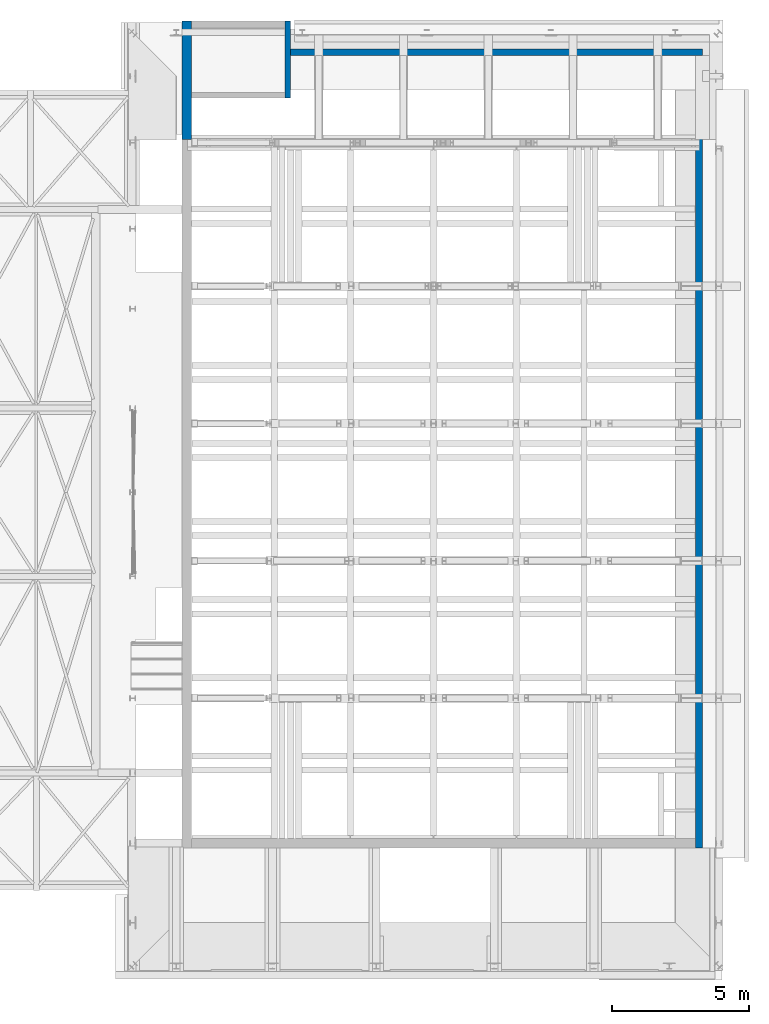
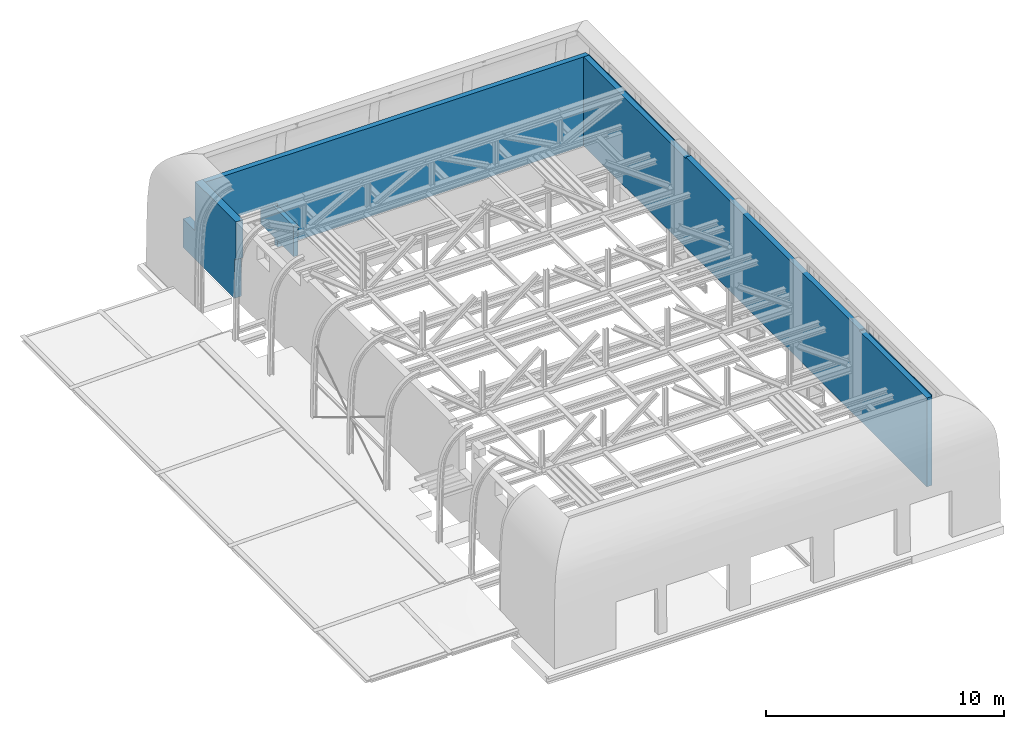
# One storey, part 26 of 29: 4 walls, 1 opening.
"""IFC2X3 building model written with IfcOpenShell, lengths in millimetres."""

from ifc_helpers import new_model, entity, si_unit, converted_unit, derived_unit, direction, frame, frame_2d, origin, place, context, subcontext, project, spatial, rectangle, extrude, faceted_brep, material, layer, layer_set, layer_usage, type_object, element, save


model = new_model("IFC2X3")

# Units and contexts
model_context = context("Model", 3, precision=0.01, world=origin(), true_north=direction((6.12303176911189e-17, 1.0)))
body_context = subcontext(model_context, "Body", "Model", "MODEL_VIEW")
ifc_project = project(units=[si_unit("LENGTHUNIT", "METRE", prefix="MILLI"), si_unit("AREAUNIT", "SQUARE_METRE", prefix="MILLI"), si_unit("VOLUMEUNIT", "CUBIC_METRE"), converted_unit("PLANEANGLEUNIT", "DEGREE", entity("IfcRatioMeasure", 0.0174532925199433), si_unit("PLANEANGLEUNIT", "RADIAN"), dimensions=[0, 0, 0, 0, 0, 0, 0]), si_unit("MASSUNIT", "GRAM", prefix="KILO"), derived_unit("MASSDENSITYUNIT", [(si_unit("MASSUNIT", "GRAM", prefix="KILO"), 1), (si_unit("LENGTHUNIT", "METRE"), -3)]), derived_unit("MOMENTOFINERTIAUNIT", [(si_unit("LENGTHUNIT", "METRE"), 4)]), si_unit("TIMEUNIT", "SECOND"), si_unit("FREQUENCYUNIT", "HERTZ"), si_unit("THERMODYNAMICTEMPERATUREUNIT", "DEGREE_CELSIUS"), derived_unit("THERMALTRANSMITTANCEUNIT", [(si_unit("MASSUNIT", "GRAM", prefix="KILO"), 1), (si_unit("THERMODYNAMICTEMPERATUREUNIT", "KELVIN"), -1), (si_unit("TIMEUNIT", "SECOND"), -3)]), derived_unit("VOLUMETRICFLOWRATEUNIT", [(si_unit("LENGTHUNIT", "METRE"), 3), (si_unit("TIMEUNIT", "SECOND"), -1)]), si_unit("ELECTRICCURRENTUNIT", "AMPERE"), si_unit("ELECTRICVOLTAGEUNIT", "VOLT"), si_unit("POWERUNIT", "WATT"), si_unit("FORCEUNIT", "NEWTON", prefix="KILO"), si_unit("ILLUMINANCEUNIT", "LUX"), si_unit("LUMINOUSFLUXUNIT", "LUMEN"), si_unit("LUMINOUSINTENSITYUNIT", "CANDELA"), derived_unit("USERDEFINED", [(si_unit("MASSUNIT", "GRAM", prefix="KILO"), -1), (si_unit("LENGTHUNIT", "METRE"), -2), (si_unit("TIMEUNIT", "SECOND"), 3), (si_unit("LUMINOUSFLUXUNIT", "LUMEN"), 1)]), derived_unit("LINEARVELOCITYUNIT", [(si_unit("LENGTHUNIT", "METRE"), 1), (si_unit("TIMEUNIT", "SECOND"), -1)]), si_unit("PRESSUREUNIT", "PASCAL"), derived_unit("USERDEFINED", [(si_unit("LENGTHUNIT", "METRE"), -2), (si_unit("MASSUNIT", "GRAM", prefix="KILO"), 1), (si_unit("TIMEUNIT", "SECOND"), -2)]), derived_unit("LINEARFORCEUNIT", [(si_unit("MASSUNIT", "GRAM", prefix="KILO"), 1), (si_unit("LENGTHUNIT", "METRE"), 1), (si_unit("TIMEUNIT", "SECOND"), -2), (si_unit("LENGTHUNIT", "METRE"), -1)]), derived_unit("PLANARFORCEUNIT", [(si_unit("MASSUNIT", "GRAM", prefix="KILO"), 1), (si_unit("LENGTHUNIT", "METRE"), 1), (si_unit("TIMEUNIT", "SECOND"), -2), (si_unit("LENGTHUNIT", "METRE"), -2)])], contexts=[model_context])

# Site, building, storey
site_placement = place(None, origin())
site = spatial("IfcSite", under=ifc_project, at=site_placement, Name="Theater aan de Parade", CompositionType="ELEMENT")
building_placement = place(site_placement, origin())
building = spatial("IfcBuilding", under=site, at=building_placement, Name="Theater aan de Parade", CompositionType="ELEMENT")
storey_placement = place(building_placement, frame((0.0, 0.0, 20300.0)))
storey = spatial("IfcBuildingStorey", under=building, at=storey_placement, Name="05 vijfde verdieping", CompositionType="ELEMENT", Elevation=20300.0)

# Wall
ifc_material = material(Name="00_PBT_MAT_beton t.p.g._C30/37")
ifc_layer_1 = layer(ifc_material, 250.0)
ifc_layer_set_1 = layer_set([ifc_layer_1], Name="Basic Wall:28_PBT_WA_beton t.p.g._d=250_C30/37")
wall_type_1 = type_object("IfcWallType", Name="Basic Wall:28_PBT_WA_beton t.p.g._d=250_C30/37", PredefinedType="STANDARD", material=ifc_layer_set_1)
wall_1_placement = place(storey_placement, frame((86180.0, 48302.0, -570.0), z_axis=(0.0, 0.0, 1.0), x_axis=(0.0, -1.0, 0.0)))
element("IfcWall", 1, at=wall_1_placement, inside=storey, type_object=wall_type_1, Name="Basic Wall:28_PBT_WA_beton t.p.g._d=250_C30/37", ObjectType="Basic Wall:28_PBT_WA_beton t.p.g._d=250_C30/37", context=body_context, shape_type="Brep", body=[
    faceted_brep([(0.0, -125.0, 0.0), (3042.0, -125.0, 0.0), (28841.9997564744, -125.0, 0.0), (28841.9997564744, -125.0, 570.0), (28841.9997564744, -125.0, 4560.0), (28491.9997564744, -125.0, 4560.0), (23517.5501004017, -125.0, 4560.0), (23492.0, -125.0, 4560.0), (23192.0, -125.0, 4560.0), (23192.0, -125.0, 4630.0), (8592.0, -125.0, 4630.0), (8592.0, -125.0, 4560.0), (8292.0, -125.0, 4560.0), (8266.44989959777, -125.0, 4560.0), (0.0, -125.0, 4560.0), (28841.9997564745, 125.0, 0.0), (942.261682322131, 125.0, 0.0), (542.261682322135, 125.0, 0.0), (0.0, 125.0, 0.0), (0.0, 125.0, 4560.0), (0.0, 125.0, 4630.0), (28841.9997564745, 125.0, 4630.0), (0.0, -124.831682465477, 0.0), (0.0, 124.564772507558, 4630.0), (8201.78200409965, 124.564772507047, 4630.0), (8592.0, 124.564772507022, 4630.0), (8592.0, -124.831682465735, 4630.0), (23192.0, -124.831682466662, 4630.0), (23192.0, 124.564772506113, 4630.0), (23582.0, 124.564772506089, 4630.0), (28841.9997564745, 124.564772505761, 4630.0), (28841.9997564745, 124.564772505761, 4560.0), (0.0, 124.564772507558, 4560.0), (23192.0, 124.564772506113, 4560.0), (8592.0, 124.564772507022, 4560.0)], [[[0, 1, 2, 3, 4, 5, 6, 7, 8, 9, 10, 11, 12, 13, 14]], [[15, 16, 17, 18, 19, 20, 21]], [[2, 1, 0, 22, 18, 17, 16, 15]], [[21, 20, 23, 24, 25, 26, 10, 9, 27, 28, 29, 30]], [[2, 15, 21, 30, 31, 4, 3]], [[20, 19, 18, 22, 0, 14, 32, 23]], [[33, 8, 7, 6, 5, 4, 31]], [[33, 28, 27, 9, 8]], [[28, 33, 31, 30, 29]], [[34, 32, 14, 13, 12, 11]], [[34, 11, 10, 26, 25]], [[32, 34, 25, 24, 23]]]),
])

# Wall, opening
ifc_layer_usage_1 = layer_usage(ifc_layer_set_1, "AXIS2", "POSITIVE", -125.0)
wall_2_placement = place(storey_placement, frame((86305.0, 48427.0, -570.0), z_axis=(0.0, 0.0, 1.0), x_axis=(-1.0, 0.0, 0.0)))
wall_2 = element("IfcWallStandardCase", 2, at=wall_2_placement, inside=storey, type_object=wall_type_1, material=ifc_layer_usage_1, Name="Basic Wall:28_PBT_WA_beton t.p.g._d=250_C30/37", ObjectType="Basic Wall:28_PBT_WA_beton t.p.g._d=250_C30/37", context=body_context, shape_type="SweptSolid", body=[
    extrude(rectangle(XDim=18598.7438990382, YDim=249.999999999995, at=frame_2d((9299.3719495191, -4.47641923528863e-13), x_axis=(-1.0, 0.0))), origin(), (0.0, 0.0, 1.0), 4560.0),
])
opening_placement = place(wall_2_placement, origin())
element("IfcOpeningElement", 3, at=opening_placement, cuts=wall_2, Name="Basic Wall:28_PBT_WA_beton t.p.g._d=250_C30/37", ObjectType="Opening", context=body_context, shape_type="SweptSolid", body=[
    extrude(rectangle(XDim=2260.0, YDim=3675.74389903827, at=frame_2d((4.32009983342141e-12, -2.1600499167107e-12), x_axis=(0.0, 1.0))), frame((16935.871949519, 125.0, 1130.0), z_axis=(0.0, -1.0, 0.0), x_axis=(1.0, 0.0, 0.0)), (0.0, 0.0, 1.0), 250.0),
])

# Walls
ifc_layer_2 = layer(ifc_material, 200.0)
ifc_layer_set_2 = layer_set([ifc_layer_2], Name="Basic Wall:28_PBT_WA_beton t.p.g._d=200_C30/37")
ifc_layer_usage_2 = layer_usage(ifc_layer_set_2, "AXIS2", "NEGATIVE", 100.0)
wall_type_2 = type_object("IfcWallType", Name="Basic Wall:28_PBT_WA_beton t.p.g._d=200_C30/37", PredefinedType="STANDARD", material=ifc_layer_set_2)
wall_3_placement = place(storey_placement, frame((71207.1457816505, 46761.8723406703, -90.0), z_axis=(0.0, 0.0, 1.0), x_axis=(0.0, 1.0, 0.0)))
element("IfcWallStandardCase", 4, at=wall_3_placement, inside=storey, type_object=wall_type_2, material=ifc_layer_usage_2, Name="Basic Wall:28_PBT_WA_beton t.p.g._d=200_C30/37", ObjectType="Basic Wall:28_PBT_WA_beton t.p.g._d=200_C30/37", context=body_context, shape_type="SweptSolid", body=[
    extrude(rectangle(XDim=2799.99949620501, YDim=200.000000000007, at=frame_2d((1399.99974810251, 0.0), x_axis=(-1.0, 0.0))), origin(), (0.0, 0.0, 1.0), 1564.99999999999),
])
ifc_layer_3 = layer(ifc_material, 350.0)
ifc_layer_set_3 = layer_set([ifc_layer_3], Name="Basic Wall:28_PBT_WA_beton t.p.g._d=350_C30/37")
wall_type_3 = type_object("IfcWallType", Name="Basic Wall:28_PBT_WA_beton t.p.g._d=350_C30/37", PredefinedType="STANDARD", material=ifc_layer_set_3)
wall_4_placement = place(storey_placement, frame((67531.2561009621, 45135.0, 0.0), z_axis=(0.0, 0.0, 1.0), x_axis=(0.0, 1.0, 0.0)))
element("IfcWall", 5, at=wall_4_placement, inside=storey, type_object=wall_type_3, Name="Basic Wall:28_PBT_WA_beton t.p.g._d=350_C30/37", ObjectType="Basic Wall:28_PBT_WA_beton t.p.g._d=350_C30/37", context=body_context, shape_type="Brep", body=[
    faceted_brep([(125.0, -175.0, 0.0), (4427.0, -175.0, 0.0), (4427.0, -175.0, 1475.0), (4177.0, -175.0, 1475.0), (3417.0, -175.0, 1475.0), (3417.0, -175.0, 1690.0), (3417.0, -175.0, 3990.0), (3167.0, -175.0, 3990.0), (3141.44989959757, -175.0, 3990.0), (3114.64451260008, -175.0, 3990.0), (170.0, -175.0, 3990.0), (0.0, -175.0, 3990.0), (0.0, -175.0, 2050.0), (125.0, -175.0, 2050.0), (4427.0, 175.0, 0.0), (125.0, 175.0, 0.0), (125.0, 175.0, 2050.0), (0.0, 175.0, 2050.0), (0.0, 175.0, 3990.0), (3417.0, 175.0, 3990.0), (3417.0, 175.0, 1475.0), (4427.0, 175.0, 1475.0)], [[[0, 1, 2, 3, 4, 5, 6, 7, 8, 9, 10, 11, 12, 13]], [[14, 15, 16, 17, 18, 19, 20, 21]], [[0, 13, 16, 15]], [[11, 10, 9, 8, 7, 6, 19, 18]], [[1, 0, 15, 14]], [[17, 12, 11, 18]], [[12, 17, 16, 13]], [[4, 3, 2, 21, 20]], [[2, 1, 14, 21]], [[4, 20, 19, 6, 5]]]),
])

save(model, "model.ifc")
